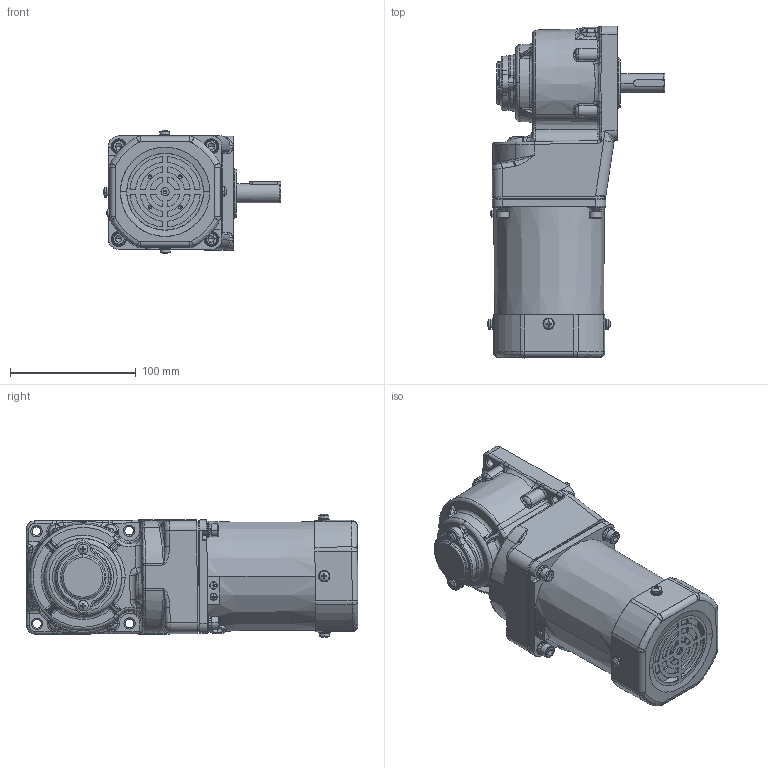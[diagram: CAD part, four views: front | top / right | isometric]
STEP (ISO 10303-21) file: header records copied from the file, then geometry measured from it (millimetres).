
FILE_DESCRIPTION (( 'STEP AP203' ), '1' );
FILE_NAME ('5RK60GU-CFT(5GU3RT-180RT)ÐÂ.STEP', '2022-02-24T03:24:58', ( 'PC' ), ( 'Microsoft' ), 'SwSTEP 2.0', 'SolidWorks 2014', '' );
FILE_SCHEMA (( 'CONFIG_CONTROL_DESIGN' ));
Length unit declared in the file: millimetre
Products named in the file (9): cross recessed pan head screws gb_GB_CROSS_SCREWS_TYPE1 M4X6-6  H type-N; 90妗陑怀堤粣; hexagon socket head cap screws gb_GB_FASTENER_SCREWS_HSHCS M5X12-N; ZD-5GU50RC-505-003綴傷裔; 5RK60GU-CFT(5GU3RT-180RT)陔; 90壔裔; zd-5gu-50rc-504-001m#眊极禱矗 2021-12-07 - 萵掛; 5RK60GU-CF(5GU3RT-180RT); 90RT妗陑怀堤傷裔
Assembly tree (12 placements, depth 2):
  5RK60GU-CFT(5GU3RT-180RT)陔
    zd-5gu-50rc-504-001m#眊极禱矗 2021-12-07 - 萵掛
    90妗陑怀堤粣
    90壔裔
    ZD-5GU50RC-505-003綴傷裔
    90RT妗陑怀堤傷裔
    hexagon socket head cap screws gb_GB_FASTENER_SCREWS_HSHCS M5X12-N  x4
    cross recessed pan head screws gb_GB_CROSS_SCREWS_TYPE1 M4X6-6  H type-N  x2
    5RK60GU-CF(5GU3RT-180RT)
Bounding box: 141.25 x 263.46 x 98.12 mm (x, y, z)
Volume: 1529976.1 mm3; surface area: 203543.5 mm2
Topology: 45 solids, 45 shells, 2224 faces, 5483 edges, 3304 vertices
Faces by surface type: plane 673, cylinder 561, bspline 481, cone 410, torus 93, sphere 6
Entity records: 88447 total; most frequent: CARTESIAN_POINT 40969, ORIENTED_EDGE 10278, DIRECTION 8982, EDGE_CURVE 5139, AXIS2_PLACEMENT_3D 3565, VERTEX_POINT 3164, EDGE_LOOP 2275, ADVANCED_FACE 2125
